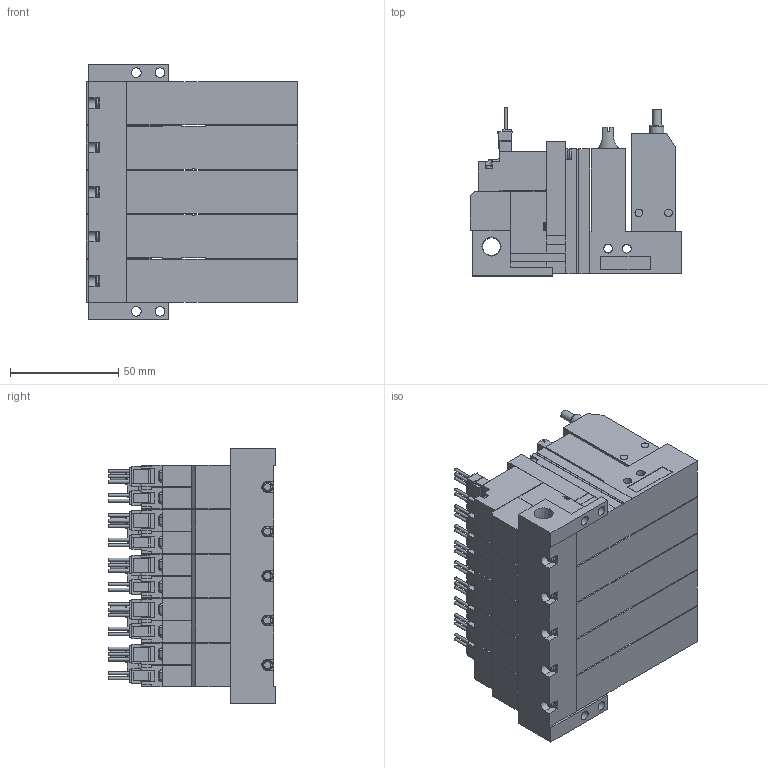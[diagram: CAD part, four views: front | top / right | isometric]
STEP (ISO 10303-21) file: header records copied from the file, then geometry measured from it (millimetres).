
FILE_DESCRIPTION(('STEP AP203'),'1');
FILE_NAME('ABS_ABPLC5WLR505.stp','2025-02-19T01:04:44',(' '),(' '),'Spatial InterOp 3D',' ',' ');
FILE_SCHEMA(('CONFIG_CONTROL_DESIGN'));
Length unit declared in the file: millimetre
Products named in the file (5): BMC22M※※※※ABS_ABPLC5WLR505; Solenoid valve W; Pressure sensor ABSLC; Unit LC; Base MR50R
Assembly tree (16 placements, depth 2):
  BMC22M※※※※ABS_ABPLC5WLR505
    Solenoid valve W  x5
    Pressure sensor ABSLC  x5
    Unit LC  x5
    Base MR50R
Bounding box: 97.6 x 77.45 x 118 mm (x, y, z)
Volume: 513689.8 mm3; surface area: 134985.4 mm2
Topology: 16 solids, 16 shells, 1981 faces, 5309 edges, 3490 vertices
Faces by surface type: plane 1684, cylinder 230, cone 37, torus 30
Full cylindrical faces by diameter (mm): 1.4 x25, 2.5 x5, 3 x20, 3.5 x30, 3.6 x5, 4 x15, 4.134 x5, 4.5 x4, 5.2 x5, 6 x5, 6.5 x5, 6.6 x5, 8.279 x1
Entity records: 14755 total; most frequent: CARTESIAN_POINT 2828, DIRECTION 2344, ORIENTED_EDGE 2310, EDGE_CURVE 1155, LINE 940, VECTOR 940, VERTEX_POINT 805, AXIS2_PLACEMENT_3D 702
